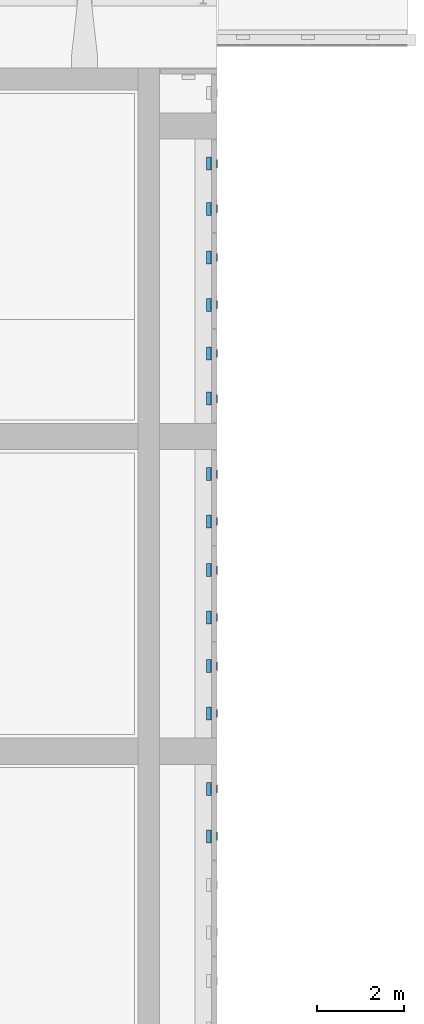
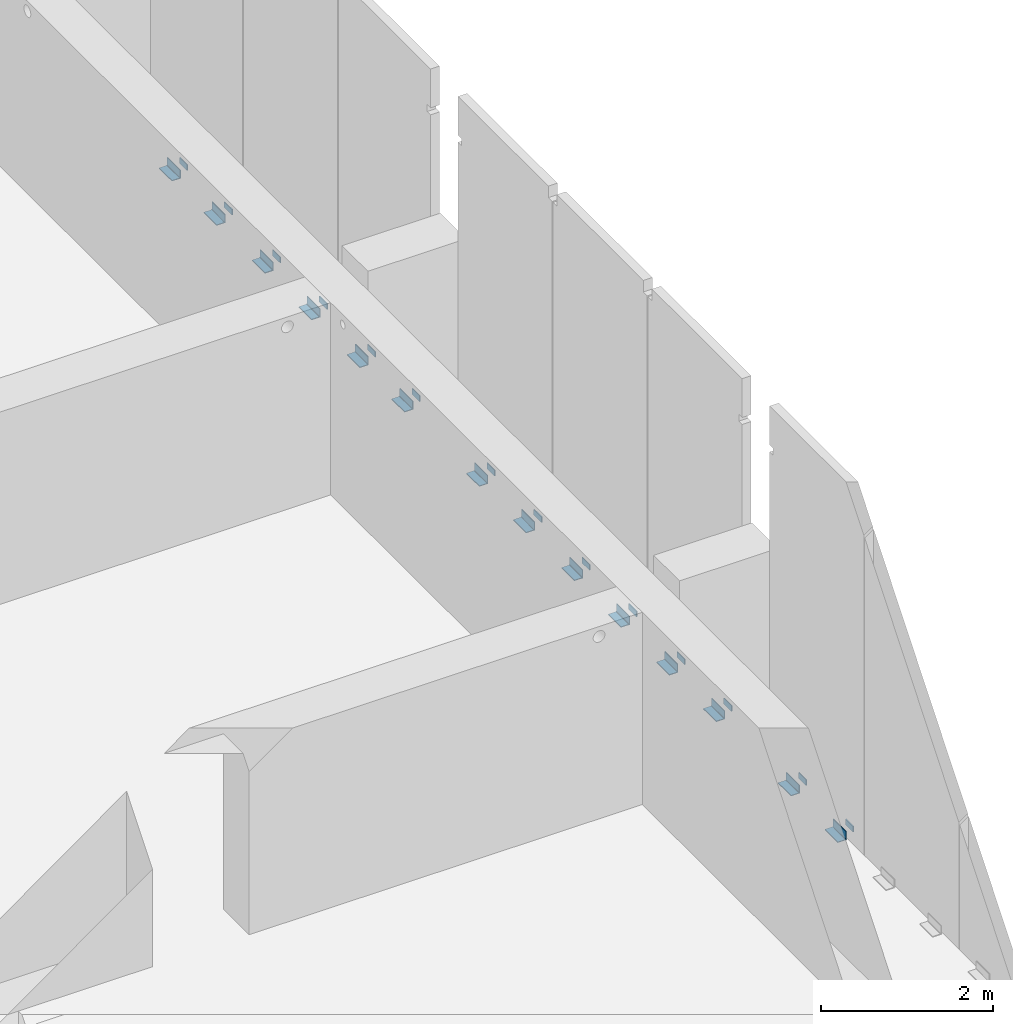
# One storey, part 19 of 31: 28 beams.
"""IFC2X3 building model written with IfcOpenShell, lengths in millimetres."""

from ifc_helpers import new_model, entity, si_unit, converted_unit, derived_unit, direction, frame, frame_2d, origin, origin_2d_with_axis, place, context, subcontext, project, spatial, polyline, circle_curve, parameter, trimmed, segment, composite_curve, rectangle, outline, extrude, source, transform, mapped, material, type_object, type_shapes, element, save


model = new_model("IFC2X3")

# Units and contexts
model_context = context("Model", 3, precision=0.01, world=origin(), true_north=direction((6.12303176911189e-17, 1.0)))
body_context = subcontext(model_context, "Body", "Model", "MODEL_VIEW")
ifc_project = project(units=[si_unit("LENGTHUNIT", "METRE", prefix="MILLI"), si_unit("AREAUNIT", "SQUARE_METRE"), si_unit("VOLUMEUNIT", "CUBIC_METRE"), converted_unit("PLANEANGLEUNIT", "DEGREE", entity("IfcRatioMeasure", 0.0174532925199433), si_unit("PLANEANGLEUNIT", "RADIAN"), dimensions=[0, 0, 0, 0, 0, 0, 0]), si_unit("MASSUNIT", "GRAM", prefix="KILO"), derived_unit("MASSDENSITYUNIT", [(si_unit("MASSUNIT", "GRAM", prefix="KILO"), 1), (si_unit("LENGTHUNIT", "METRE"), -3)]), si_unit("TIMEUNIT", "SECOND"), si_unit("FREQUENCYUNIT", "HERTZ"), si_unit("THERMODYNAMICTEMPERATUREUNIT", "DEGREE_CELSIUS"), derived_unit("THERMALTRANSMITTANCEUNIT", [(si_unit("MASSUNIT", "GRAM", prefix="KILO"), 1), (si_unit("THERMODYNAMICTEMPERATUREUNIT", "KELVIN"), -1), (si_unit("TIMEUNIT", "SECOND"), -3)]), derived_unit("VOLUMETRICFLOWRATEUNIT", [(si_unit("LENGTHUNIT", "METRE"), 3), (si_unit("TIMEUNIT", "SECOND"), -1)]), si_unit("ELECTRICCURRENTUNIT", "AMPERE"), si_unit("ELECTRICVOLTAGEUNIT", "VOLT"), si_unit("POWERUNIT", "WATT"), si_unit("FORCEUNIT", "NEWTON", prefix="KILO"), si_unit("ILLUMINANCEUNIT", "LUX"), si_unit("LUMINOUSFLUXUNIT", "LUMEN"), si_unit("LUMINOUSINTENSITYUNIT", "CANDELA"), derived_unit("USERDEFINED", [(si_unit("MASSUNIT", "GRAM", prefix="KILO"), -1), (si_unit("LENGTHUNIT", "METRE"), -2), (si_unit("TIMEUNIT", "SECOND"), 3), (si_unit("LUMINOUSFLUXUNIT", "LUMEN"), 1)]), derived_unit("LINEARVELOCITYUNIT", [(si_unit("LENGTHUNIT", "METRE"), 1), (si_unit("TIMEUNIT", "SECOND"), -1)]), si_unit("PRESSUREUNIT", "PASCAL"), derived_unit("USERDEFINED", [(si_unit("LENGTHUNIT", "METRE"), -2), (si_unit("MASSUNIT", "GRAM", prefix="KILO"), 1), (si_unit("TIMEUNIT", "SECOND"), -2)])], contexts=[model_context])

# Site, building, storey
site_placement = place(None, origin())
site = spatial("IfcSite", under=ifc_project, at=site_placement, Name="Default", CompositionType="ELEMENT")
building_placement = place(site_placement, origin())
building = spatial("IfcBuilding", under=site, at=building_placement, Name="niet gebruiken", CompositionType="ELEMENT")
storey_placement = place(building_placement, frame((0.0, 0.0, 12000.0)))
storey = spatial("IfcBuildingStorey", under=building, at=storey_placement, Name="03 derde verdieping", CompositionType="ELEMENT", Elevation=12000.0)

# Beams
ifc_material = material(Name="NLRS_h2_staal")
beam_type_1 = type_object("IfcBeamType", Name="NLRS_28.11_SF_WPB_stalen ligger hoekprofiel gelijkzijdig_gen:ligger gelijzijdig hoekprofiel LEQU_120x120x12_!", PredefinedType="BEAM")
beam_1_placement = place(storey_placement, frame((158660.0, 15390.0, 30.0), z_axis=(0.0, 0.0, 1.0), x_axis=(0.0, 1.0, 0.0)))
element("IfcBeam", 1, at=beam_1_placement, inside=storey, type_object=beam_type_1, material=ifc_material, Name="NLRS_28.11_SF_WPB_stalen ligger hoekprofiel gelijkzijdig_gen:ligger gelijzijdig hoekprofiel LEQU_120x120x12_!", ObjectType="NLRS_28.11_SF_WPB_stalen ligger hoekprofiel gelijkzijdig_gen:ligger gelijzijdig hoekprofiel LEQU_120x120x12_!", context=body_context, shape_type="SweptSolid", body=[
    extrude(outline(composite_curve([segment(polyline([(-75.5555555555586, -44.4444444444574), (44.4444444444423, -44.4444444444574)]), True, "CONTINUOUS"), segment(polyline([(44.4444444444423, -44.4444444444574), (44.4444444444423, 75.5555555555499)]), True, "CONTINUOUS"), segment(polyline([(44.4444444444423, 75.5555555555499), (40.444444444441, 75.5555555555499)]), True, "CONTINUOUS"), segment(trimmed(circle_curve(frame_2d((40.4444444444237, 69.5555555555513), x_axis=(0.0, 1.0)), 5.9999999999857), [parameter(0.0)], [parameter(90.0000000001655)], True, "PARAMETER"), True, "CONTINUOUS"), segment(polyline([(34.4444444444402, 69.5555555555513), (34.4444444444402, -22.4444444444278)]), True, "CONTINUOUS"), segment(trimmed(circle_curve(frame_2d((22.4444444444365, -22.4444444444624), x_axis=(1.0, 0.0)), 12.000000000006), [parameter(270.000000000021)], [parameter(0.0)], True, "PARAMETER"), False, "CONTINUOUS"), segment(polyline([(22.4444444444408, -34.4444444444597), (-69.55555555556, -34.4444444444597)]), True, "CONTINUOUS"), segment(trimmed(circle_curve(frame_2d((-69.5555555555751, -40.4444444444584), x_axis=(0.0, 1.0)), 5.9999999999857), [parameter(0.0)], [parameter(90.0000000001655)], True, "PARAMETER"), True, "CONTINUOUS"), segment(polyline([(-75.5555555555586, -40.4444444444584), (-75.5555555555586, -44.4444444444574)]), True, "CONTINUOUS")], self_intersect=False)), frame((0.0, 24.4444444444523, -75.5555555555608), z_axis=(1.0, 0.0, 0.0), x_axis=(0.0, 0.0, -1.0)), (0.0, 0.0, 1.0), 300.000000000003),
])
beam_2_placement = place(storey_placement, frame((158660.0, 16480.0, 30.0), z_axis=(0.0, 0.0, 1.0), x_axis=(0.0, 1.0, 0.0)))
element("IfcBeam", 2, at=beam_2_placement, inside=storey, type_object=beam_type_1, material=ifc_material, Name="NLRS_28.11_SF_WPB_stalen ligger hoekprofiel gelijkzijdig_gen:ligger gelijzijdig hoekprofiel LEQU_120x120x12_!", ObjectType="NLRS_28.11_SF_WPB_stalen ligger hoekprofiel gelijkzijdig_gen:ligger gelijzijdig hoekprofiel LEQU_120x120x12_!", context=body_context, shape_type="SweptSolid", body=[
    extrude(outline(composite_curve([segment(polyline([(-75.5555555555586, -44.4444444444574), (44.4444444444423, -44.4444444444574)]), True, "CONTINUOUS"), segment(polyline([(44.4444444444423, -44.4444444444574), (44.4444444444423, 75.5555555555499)]), True, "CONTINUOUS"), segment(polyline([(44.4444444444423, 75.5555555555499), (40.444444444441, 75.5555555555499)]), True, "CONTINUOUS"), segment(trimmed(circle_curve(frame_2d((40.4444444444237, 69.5555555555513), x_axis=(0.0, 1.0)), 5.9999999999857), [parameter(0.0)], [parameter(90.0000000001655)], True, "PARAMETER"), True, "CONTINUOUS"), segment(polyline([(34.4444444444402, 69.5555555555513), (34.4444444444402, -22.4444444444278)]), True, "CONTINUOUS"), segment(trimmed(circle_curve(frame_2d((22.4444444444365, -22.4444444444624), x_axis=(1.0, 0.0)), 12.000000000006), [parameter(270.000000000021)], [parameter(0.0)], True, "PARAMETER"), False, "CONTINUOUS"), segment(polyline([(22.4444444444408, -34.4444444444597), (-69.55555555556, -34.4444444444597)]), True, "CONTINUOUS"), segment(trimmed(circle_curve(frame_2d((-69.5555555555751, -40.4444444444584), x_axis=(0.0, 1.0)), 5.9999999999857), [parameter(0.0)], [parameter(90.0000000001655)], True, "PARAMETER"), True, "CONTINUOUS"), segment(polyline([(-75.5555555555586, -40.4444444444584), (-75.5555555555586, -44.4444444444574)]), True, "CONTINUOUS")], self_intersect=False)), frame((0.0, 24.4444444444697, -75.5555555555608), z_axis=(1.0, 0.0, 0.0), x_axis=(0.0, 0.0, -1.0)), (0.0, 0.0, 1.0), 300.000000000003),
])
beam_3_placement = place(storey_placement, frame((158660.0, 18220.0, 30.0), z_axis=(0.0, 0.0, 1.0), x_axis=(0.0, 1.0, 0.0)))
element("IfcBeam", 3, at=beam_3_placement, inside=storey, type_object=beam_type_1, material=ifc_material, Name="NLRS_28.11_SF_WPB_stalen ligger hoekprofiel gelijkzijdig_gen:ligger gelijzijdig hoekprofiel LEQU_120x120x12_!", ObjectType="NLRS_28.11_SF_WPB_stalen ligger hoekprofiel gelijkzijdig_gen:ligger gelijzijdig hoekprofiel LEQU_120x120x12_!", context=body_context, shape_type="SweptSolid", body=[
    extrude(outline(composite_curve([segment(polyline([(-75.5555555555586, -44.4444444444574), (44.4444444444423, -44.4444444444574)]), True, "CONTINUOUS"), segment(polyline([(44.4444444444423, -44.4444444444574), (44.4444444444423, 75.5555555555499)]), True, "CONTINUOUS"), segment(polyline([(44.4444444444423, 75.5555555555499), (40.444444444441, 75.5555555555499)]), True, "CONTINUOUS"), segment(trimmed(circle_curve(frame_2d((40.4444444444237, 69.5555555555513), x_axis=(0.0, 1.0)), 5.9999999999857), [parameter(0.0)], [parameter(90.0000000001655)], True, "PARAMETER"), True, "CONTINUOUS"), segment(polyline([(34.4444444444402, 69.5555555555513), (34.4444444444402, -22.4444444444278)]), True, "CONTINUOUS"), segment(trimmed(circle_curve(frame_2d((22.4444444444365, -22.4444444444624), x_axis=(1.0, 0.0)), 12.000000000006), [parameter(270.000000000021)], [parameter(0.0)], True, "PARAMETER"), False, "CONTINUOUS"), segment(polyline([(22.4444444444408, -34.4444444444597), (-69.55555555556, -34.4444444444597)]), True, "CONTINUOUS"), segment(trimmed(circle_curve(frame_2d((-69.5555555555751, -40.4444444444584), x_axis=(0.0, 1.0)), 5.9999999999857), [parameter(0.0)], [parameter(90.0000000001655)], True, "PARAMETER"), True, "CONTINUOUS"), segment(polyline([(-75.5555555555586, -40.4444444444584), (-75.5555555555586, -44.4444444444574)]), True, "CONTINUOUS")], self_intersect=False)), frame((0.0, 24.4444444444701, -75.5555555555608), z_axis=(1.0, 0.0, 0.0), x_axis=(0.0, 0.0, -1.0)), (0.0, 0.0, 1.0), 300.000000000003),
])
beam_4_placement = place(storey_placement, frame((158660.0, 19310.0, 30.0), z_axis=(0.0, 0.0, 1.0), x_axis=(0.0, 1.0, 0.0)))
element("IfcBeam", 4, at=beam_4_placement, inside=storey, type_object=beam_type_1, material=ifc_material, Name="NLRS_28.11_SF_WPB_stalen ligger hoekprofiel gelijkzijdig_gen:ligger gelijzijdig hoekprofiel LEQU_120x120x12_!", ObjectType="NLRS_28.11_SF_WPB_stalen ligger hoekprofiel gelijkzijdig_gen:ligger gelijzijdig hoekprofiel LEQU_120x120x12_!", context=body_context, shape_type="SweptSolid", body=[
    extrude(outline(composite_curve([segment(polyline([(-75.5555555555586, -44.4444444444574), (44.4444444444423, -44.4444444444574)]), True, "CONTINUOUS"), segment(polyline([(44.4444444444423, -44.4444444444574), (44.4444444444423, 75.5555555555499)]), True, "CONTINUOUS"), segment(polyline([(44.4444444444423, 75.5555555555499), (40.444444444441, 75.5555555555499)]), True, "CONTINUOUS"), segment(trimmed(circle_curve(frame_2d((40.4444444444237, 69.5555555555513), x_axis=(0.0, 1.0)), 5.9999999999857), [parameter(0.0)], [parameter(90.0000000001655)], True, "PARAMETER"), True, "CONTINUOUS"), segment(polyline([(34.4444444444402, 69.5555555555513), (34.4444444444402, -22.4444444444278)]), True, "CONTINUOUS"), segment(trimmed(circle_curve(frame_2d((22.4444444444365, -22.4444444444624), x_axis=(1.0, 0.0)), 12.000000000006), [parameter(270.000000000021)], [parameter(0.0)], True, "PARAMETER"), False, "CONTINUOUS"), segment(polyline([(22.4444444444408, -34.4444444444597), (-69.55555555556, -34.4444444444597)]), True, "CONTINUOUS"), segment(trimmed(circle_curve(frame_2d((-69.5555555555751, -40.4444444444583), x_axis=(0.0, 1.0)), 5.9999999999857), [parameter(0.0)], [parameter(90.0000000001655)], True, "PARAMETER"), True, "CONTINUOUS"), segment(polyline([(-75.5555555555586, -40.4444444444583), (-75.5555555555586, -44.4444444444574)]), True, "CONTINUOUS")], self_intersect=False)), frame((0.0, 24.4444444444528, -75.5555555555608), z_axis=(1.0, 0.0, 0.0), x_axis=(0.0, 0.0, -1.0)), (0.0, 0.0, 1.0), 300.000000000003),
])
beam_5_placement = place(storey_placement, frame((158660.0, 20430.0, 30.0), z_axis=(0.0, 0.0, 1.0), x_axis=(0.0, 1.0, 0.0)))
element("IfcBeam", 5, at=beam_5_placement, inside=storey, type_object=beam_type_1, material=ifc_material, Name="NLRS_28.11_SF_WPB_stalen ligger hoekprofiel gelijkzijdig_gen:ligger gelijzijdig hoekprofiel LEQU_120x120x12_!", ObjectType="NLRS_28.11_SF_WPB_stalen ligger hoekprofiel gelijkzijdig_gen:ligger gelijzijdig hoekprofiel LEQU_120x120x12_!", context=body_context, shape_type="SweptSolid", body=[
    extrude(outline(composite_curve([segment(polyline([(-75.5555555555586, -44.4444444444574), (44.4444444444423, -44.4444444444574)]), True, "CONTINUOUS"), segment(polyline([(44.4444444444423, -44.4444444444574), (44.4444444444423, 75.5555555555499)]), True, "CONTINUOUS"), segment(polyline([(44.4444444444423, 75.5555555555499), (40.444444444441, 75.5555555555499)]), True, "CONTINUOUS"), segment(trimmed(circle_curve(frame_2d((40.4444444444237, 69.5555555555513), x_axis=(0.0, 1.0)), 5.9999999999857), [parameter(0.0)], [parameter(90.0000000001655)], True, "PARAMETER"), True, "CONTINUOUS"), segment(polyline([(34.4444444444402, 69.5555555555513), (34.4444444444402, -22.4444444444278)]), True, "CONTINUOUS"), segment(trimmed(circle_curve(frame_2d((22.4444444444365, -22.4444444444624), x_axis=(1.0, 0.0)), 12.000000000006), [parameter(270.000000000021)], [parameter(0.0)], True, "PARAMETER"), False, "CONTINUOUS"), segment(polyline([(22.4444444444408, -34.4444444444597), (-69.55555555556, -34.4444444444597)]), True, "CONTINUOUS"), segment(trimmed(circle_curve(frame_2d((-69.5555555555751, -40.4444444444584), x_axis=(0.0, 1.0)), 5.9999999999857), [parameter(0.0)], [parameter(90.0000000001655)], True, "PARAMETER"), True, "CONTINUOUS"), segment(polyline([(-75.5555555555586, -40.4444444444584), (-75.5555555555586, -44.4444444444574)]), True, "CONTINUOUS")], self_intersect=False)), frame((0.0, 24.4444444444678, -75.5555555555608), z_axis=(1.0, 0.0, 0.0), x_axis=(0.0, 0.0, -1.0)), (0.0, 0.0, 1.0), 300.000000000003),
])
beam_6_placement = place(storey_placement, frame((158660.0, 21520.0, 30.0), z_axis=(0.0, 0.0, 1.0), x_axis=(0.0, 1.0, 0.0)))
element("IfcBeam", 6, at=beam_6_placement, inside=storey, type_object=beam_type_1, material=ifc_material, Name="NLRS_28.11_SF_WPB_stalen ligger hoekprofiel gelijkzijdig_gen:ligger gelijzijdig hoekprofiel LEQU_120x120x12_!", ObjectType="NLRS_28.11_SF_WPB_stalen ligger hoekprofiel gelijkzijdig_gen:ligger gelijzijdig hoekprofiel LEQU_120x120x12_!", context=body_context, shape_type="SweptSolid", body=[
    extrude(outline(composite_curve([segment(polyline([(-75.5555555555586, -44.4444444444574), (44.4444444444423, -44.4444444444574)]), True, "CONTINUOUS"), segment(polyline([(44.4444444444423, -44.4444444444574), (44.4444444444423, 75.5555555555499)]), True, "CONTINUOUS"), segment(polyline([(44.4444444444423, 75.5555555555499), (40.444444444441, 75.5555555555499)]), True, "CONTINUOUS"), segment(trimmed(circle_curve(frame_2d((40.4444444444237, 69.5555555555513), x_axis=(0.0, 1.0)), 5.9999999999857), [parameter(0.0)], [parameter(90.0000000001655)], True, "PARAMETER"), True, "CONTINUOUS"), segment(polyline([(34.4444444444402, 69.5555555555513), (34.4444444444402, -22.4444444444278)]), True, "CONTINUOUS"), segment(trimmed(circle_curve(frame_2d((22.4444444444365, -22.4444444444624), x_axis=(1.0, 0.0)), 12.000000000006), [parameter(270.000000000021)], [parameter(0.0)], True, "PARAMETER"), False, "CONTINUOUS"), segment(polyline([(22.4444444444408, -34.4444444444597), (-69.55555555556, -34.4444444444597)]), True, "CONTINUOUS"), segment(trimmed(circle_curve(frame_2d((-69.5555555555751, -40.4444444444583), x_axis=(0.0, 1.0)), 5.9999999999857), [parameter(0.0)], [parameter(90.0000000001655)], True, "PARAMETER"), True, "CONTINUOUS"), segment(polyline([(-75.5555555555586, -40.4444444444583), (-75.5555555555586, -44.4444444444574)]), True, "CONTINUOUS")], self_intersect=False)), frame((0.0, 24.4444444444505, -75.5555555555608), z_axis=(1.0, 0.0, 0.0), x_axis=(0.0, 0.0, -1.0)), (0.0, 0.0, 1.0), 300.000000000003),
])
beam_7_placement = place(storey_placement, frame((158660.0, 22640.0, 30.0), z_axis=(0.0, 0.0, 1.0), x_axis=(0.0, 1.0, 0.0)))
element("IfcBeam", 7, at=beam_7_placement, inside=storey, type_object=beam_type_1, material=ifc_material, Name="NLRS_28.11_SF_WPB_stalen ligger hoekprofiel gelijkzijdig_gen:ligger gelijzijdig hoekprofiel LEQU_120x120x12_!", ObjectType="NLRS_28.11_SF_WPB_stalen ligger hoekprofiel gelijkzijdig_gen:ligger gelijzijdig hoekprofiel LEQU_120x120x12_!", context=body_context, shape_type="SweptSolid", body=[
    extrude(outline(composite_curve([segment(polyline([(-75.5555555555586, -44.4444444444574), (44.4444444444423, -44.4444444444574)]), True, "CONTINUOUS"), segment(polyline([(44.4444444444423, -44.4444444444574), (44.4444444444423, 75.5555555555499)]), True, "CONTINUOUS"), segment(polyline([(44.4444444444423, 75.5555555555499), (40.444444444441, 75.5555555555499)]), True, "CONTINUOUS"), segment(trimmed(circle_curve(frame_2d((40.4444444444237, 69.5555555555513), x_axis=(0.0, 1.0)), 5.9999999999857), [parameter(0.0)], [parameter(90.0000000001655)], True, "PARAMETER"), True, "CONTINUOUS"), segment(polyline([(34.4444444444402, 69.5555555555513), (34.4444444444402, -22.4444444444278)]), True, "CONTINUOUS"), segment(trimmed(circle_curve(frame_2d((22.4444444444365, -22.4444444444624), x_axis=(1.0, 0.0)), 12.000000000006), [parameter(270.000000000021)], [parameter(0.0)], True, "PARAMETER"), False, "CONTINUOUS"), segment(polyline([(22.4444444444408, -34.4444444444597), (-69.55555555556, -34.4444444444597)]), True, "CONTINUOUS"), segment(trimmed(circle_curve(frame_2d((-69.5555555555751, -40.4444444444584), x_axis=(0.0, 1.0)), 5.9999999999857), [parameter(0.0)], [parameter(90.0000000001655)], True, "PARAMETER"), True, "CONTINUOUS"), segment(polyline([(-75.5555555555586, -40.4444444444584), (-75.5555555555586, -44.4444444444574)]), True, "CONTINUOUS")], self_intersect=False)), frame((0.0, 24.4444444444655, -75.5555555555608), z_axis=(1.0, 0.0, 0.0), x_axis=(0.0, 0.0, -1.0)), (0.0, 0.0, 1.0), 300.000000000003),
])
beam_8_placement = place(storey_placement, frame((158660.0, 23730.0, 30.0), z_axis=(0.0, 0.0, 1.0), x_axis=(0.0, 1.0, 0.0)))
element("IfcBeam", 8, at=beam_8_placement, inside=storey, type_object=beam_type_1, material=ifc_material, Name="NLRS_28.11_SF_WPB_stalen ligger hoekprofiel gelijkzijdig_gen:ligger gelijzijdig hoekprofiel LEQU_120x120x12_!", ObjectType="NLRS_28.11_SF_WPB_stalen ligger hoekprofiel gelijkzijdig_gen:ligger gelijzijdig hoekprofiel LEQU_120x120x12_!", context=body_context, shape_type="SweptSolid", body=[
    extrude(outline(composite_curve([segment(polyline([(-75.5555555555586, -44.4444444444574), (44.4444444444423, -44.4444444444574)]), True, "CONTINUOUS"), segment(polyline([(44.4444444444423, -44.4444444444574), (44.4444444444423, 75.5555555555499)]), True, "CONTINUOUS"), segment(polyline([(44.4444444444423, 75.5555555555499), (40.444444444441, 75.5555555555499)]), True, "CONTINUOUS"), segment(trimmed(circle_curve(frame_2d((40.4444444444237, 69.5555555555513), x_axis=(0.0, 1.0)), 5.9999999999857), [parameter(0.0)], [parameter(90.0000000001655)], True, "PARAMETER"), True, "CONTINUOUS"), segment(polyline([(34.4444444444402, 69.5555555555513), (34.4444444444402, -22.4444444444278)]), True, "CONTINUOUS"), segment(trimmed(circle_curve(frame_2d((22.4444444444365, -22.4444444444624), x_axis=(1.0, 0.0)), 12.000000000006), [parameter(270.000000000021)], [parameter(0.0)], True, "PARAMETER"), False, "CONTINUOUS"), segment(polyline([(22.4444444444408, -34.4444444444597), (-69.55555555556, -34.4444444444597)]), True, "CONTINUOUS"), segment(trimmed(circle_curve(frame_2d((-69.5555555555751, -40.4444444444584), x_axis=(0.0, 1.0)), 5.9999999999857), [parameter(0.0)], [parameter(90.0000000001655)], True, "PARAMETER"), True, "CONTINUOUS"), segment(polyline([(-75.5555555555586, -40.4444444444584), (-75.5555555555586, -44.4444444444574)]), True, "CONTINUOUS")], self_intersect=False)), frame((0.0, 24.4444444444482, -75.5555555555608), z_axis=(1.0, 0.0, 0.0), x_axis=(0.0, 0.0, -1.0)), (0.0, 0.0, 1.0), 300.000000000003),
])
beam_9_placement = place(storey_placement, frame((158660.0, 25470.0, 30.0), z_axis=(0.0, 0.0, 1.0), x_axis=(0.0, 1.0, 0.0)))
element("IfcBeam", 9, at=beam_9_placement, inside=storey, type_object=beam_type_1, material=ifc_material, Name="NLRS_28.11_SF_WPB_stalen ligger hoekprofiel gelijkzijdig_gen:ligger gelijzijdig hoekprofiel LEQU_120x120x12_!", ObjectType="NLRS_28.11_SF_WPB_stalen ligger hoekprofiel gelijkzijdig_gen:ligger gelijzijdig hoekprofiel LEQU_120x120x12_!", context=body_context, shape_type="SweptSolid", body=[
    extrude(outline(composite_curve([segment(polyline([(-75.5555555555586, -44.4444444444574), (44.4444444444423, -44.4444444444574)]), True, "CONTINUOUS"), segment(polyline([(44.4444444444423, -44.4444444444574), (44.4444444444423, 75.5555555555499)]), True, "CONTINUOUS"), segment(polyline([(44.4444444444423, 75.5555555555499), (40.444444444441, 75.5555555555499)]), True, "CONTINUOUS"), segment(trimmed(circle_curve(frame_2d((40.4444444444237, 69.5555555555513), x_axis=(0.0, 1.0)), 5.9999999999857), [parameter(0.0)], [parameter(90.0000000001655)], True, "PARAMETER"), True, "CONTINUOUS"), segment(polyline([(34.4444444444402, 69.5555555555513), (34.4444444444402, -22.4444444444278)]), True, "CONTINUOUS"), segment(trimmed(circle_curve(frame_2d((22.4444444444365, -22.4444444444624), x_axis=(1.0, 0.0)), 12.000000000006), [parameter(270.000000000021)], [parameter(0.0)], True, "PARAMETER"), False, "CONTINUOUS"), segment(polyline([(22.4444444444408, -34.4444444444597), (-69.55555555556, -34.4444444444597)]), True, "CONTINUOUS"), segment(trimmed(circle_curve(frame_2d((-69.5555555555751, -40.4444444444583), x_axis=(0.0, 1.0)), 5.9999999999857), [parameter(0.0)], [parameter(90.0000000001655)], True, "PARAMETER"), True, "CONTINUOUS"), segment(polyline([(-75.5555555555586, -40.4444444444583), (-75.5555555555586, -44.4444444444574)]), True, "CONTINUOUS")], self_intersect=False)), frame((0.0, 24.4444444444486, -75.5555555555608), z_axis=(1.0, 0.0, 0.0), x_axis=(0.0, 0.0, -1.0)), (0.0, 0.0, 1.0), 300.000000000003),
])
beam_10_placement = place(storey_placement, frame((158660.0, 26510.0, 30.0), z_axis=(0.0, 0.0, 1.0), x_axis=(0.0, 1.0, 0.0)))
element("IfcBeam", 10, at=beam_10_placement, inside=storey, type_object=beam_type_1, material=ifc_material, Name="NLRS_28.11_SF_WPB_stalen ligger hoekprofiel gelijkzijdig_gen:ligger gelijzijdig hoekprofiel LEQU_120x120x12_!", ObjectType="NLRS_28.11_SF_WPB_stalen ligger hoekprofiel gelijkzijdig_gen:ligger gelijzijdig hoekprofiel LEQU_120x120x12_!", context=body_context, shape_type="SweptSolid", body=[
    extrude(outline(composite_curve([segment(polyline([(-75.5555555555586, -44.4444444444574), (44.4444444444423, -44.4444444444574)]), True, "CONTINUOUS"), segment(polyline([(44.4444444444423, -44.4444444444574), (44.4444444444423, 75.5555555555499)]), True, "CONTINUOUS"), segment(polyline([(44.4444444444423, 75.5555555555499), (40.444444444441, 75.5555555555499)]), True, "CONTINUOUS"), segment(trimmed(circle_curve(frame_2d((40.4444444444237, 69.5555555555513), x_axis=(0.0, 1.0)), 5.9999999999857), [parameter(0.0)], [parameter(90.0000000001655)], True, "PARAMETER"), True, "CONTINUOUS"), segment(polyline([(34.4444444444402, 69.5555555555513), (34.4444444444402, -22.4444444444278)]), True, "CONTINUOUS"), segment(trimmed(circle_curve(frame_2d((22.4444444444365, -22.4444444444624), x_axis=(1.0, 0.0)), 12.000000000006), [parameter(270.000000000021)], [parameter(0.0)], True, "PARAMETER"), False, "CONTINUOUS"), segment(polyline([(22.4444444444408, -34.4444444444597), (-69.55555555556, -34.4444444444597)]), True, "CONTINUOUS"), segment(trimmed(circle_curve(frame_2d((-69.5555555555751, -40.4444444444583), x_axis=(0.0, 1.0)), 5.9999999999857), [parameter(0.0)], [parameter(90.0000000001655)], True, "PARAMETER"), True, "CONTINUOUS"), segment(polyline([(-75.5555555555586, -40.4444444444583), (-75.5555555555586, -44.4444444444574)]), True, "CONTINUOUS")], self_intersect=False)), frame((0.0, 24.4444444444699, -75.5555555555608), z_axis=(1.0, 0.0, 0.0), x_axis=(0.0, 0.0, -1.0)), (0.0, 0.0, 1.0), 300.000000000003),
])
beam_11_placement = place(storey_placement, frame((158660.0, 27630.0, 30.0), z_axis=(0.0, 0.0, 1.0), x_axis=(0.0, 1.0, 0.0)))
element("IfcBeam", 11, at=beam_11_placement, inside=storey, type_object=beam_type_1, material=ifc_material, Name="NLRS_28.11_SF_WPB_stalen ligger hoekprofiel gelijkzijdig_gen:ligger gelijzijdig hoekprofiel LEQU_120x120x12_!", ObjectType="NLRS_28.11_SF_WPB_stalen ligger hoekprofiel gelijkzijdig_gen:ligger gelijzijdig hoekprofiel LEQU_120x120x12_!", context=body_context, shape_type="SweptSolid", body=[
    extrude(outline(composite_curve([segment(polyline([(-75.5555555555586, -44.4444444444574), (44.4444444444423, -44.4444444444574)]), True, "CONTINUOUS"), segment(polyline([(44.4444444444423, -44.4444444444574), (44.4444444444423, 75.5555555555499)]), True, "CONTINUOUS"), segment(polyline([(44.4444444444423, 75.5555555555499), (40.444444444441, 75.5555555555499)]), True, "CONTINUOUS"), segment(trimmed(circle_curve(frame_2d((40.4444444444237, 69.5555555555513), x_axis=(0.0, 1.0)), 5.9999999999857), [parameter(0.0)], [parameter(90.0000000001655)], True, "PARAMETER"), True, "CONTINUOUS"), segment(polyline([(34.4444444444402, 69.5555555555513), (34.4444444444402, -22.4444444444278)]), True, "CONTINUOUS"), segment(trimmed(circle_curve(frame_2d((22.4444444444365, -22.4444444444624), x_axis=(1.0, 0.0)), 12.000000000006), [parameter(270.000000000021)], [parameter(0.0)], True, "PARAMETER"), False, "CONTINUOUS"), segment(polyline([(22.4444444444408, -34.4444444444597), (-69.55555555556, -34.4444444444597)]), True, "CONTINUOUS"), segment(trimmed(circle_curve(frame_2d((-69.5555555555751, -40.4444444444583), x_axis=(0.0, 1.0)), 5.9999999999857), [parameter(0.0)], [parameter(90.0000000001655)], True, "PARAMETER"), True, "CONTINUOUS"), segment(polyline([(-75.5555555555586, -40.4444444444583), (-75.5555555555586, -44.4444444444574)]), True, "CONTINUOUS")], self_intersect=False)), frame((0.0, 24.4444444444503, -75.5555555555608), z_axis=(1.0, 0.0, 0.0), x_axis=(0.0, 0.0, -1.0)), (0.0, 0.0, 1.0), 300.000000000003),
])
beam_12_placement = place(storey_placement, frame((158660.0, 28720.0, 30.0), z_axis=(0.0, 0.0, 1.0), x_axis=(0.0, 1.0, 0.0)))
element("IfcBeam", 12, at=beam_12_placement, inside=storey, type_object=beam_type_1, material=ifc_material, Name="NLRS_28.11_SF_WPB_stalen ligger hoekprofiel gelijkzijdig_gen:ligger gelijzijdig hoekprofiel LEQU_120x120x12_!", ObjectType="NLRS_28.11_SF_WPB_stalen ligger hoekprofiel gelijkzijdig_gen:ligger gelijzijdig hoekprofiel LEQU_120x120x12_!", context=body_context, shape_type="SweptSolid", body=[
    extrude(outline(composite_curve([segment(polyline([(-75.5555555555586, -44.4444444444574), (44.4444444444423, -44.4444444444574)]), True, "CONTINUOUS"), segment(polyline([(44.4444444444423, -44.4444444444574), (44.4444444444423, 75.5555555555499)]), True, "CONTINUOUS"), segment(polyline([(44.4444444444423, 75.5555555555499), (40.444444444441, 75.5555555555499)]), True, "CONTINUOUS"), segment(trimmed(circle_curve(frame_2d((40.4444444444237, 69.5555555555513), x_axis=(0.0, 1.0)), 5.9999999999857), [parameter(0.0)], [parameter(90.0000000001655)], True, "PARAMETER"), True, "CONTINUOUS"), segment(polyline([(34.4444444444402, 69.5555555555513), (34.4444444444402, -22.4444444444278)]), True, "CONTINUOUS"), segment(trimmed(circle_curve(frame_2d((22.4444444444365, -22.4444444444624), x_axis=(1.0, 0.0)), 12.000000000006), [parameter(270.000000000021)], [parameter(0.0)], True, "PARAMETER"), False, "CONTINUOUS"), segment(polyline([(22.4444444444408, -34.4444444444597), (-69.55555555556, -34.4444444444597)]), True, "CONTINUOUS"), segment(trimmed(circle_curve(frame_2d((-69.5555555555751, -40.4444444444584), x_axis=(0.0, 1.0)), 5.9999999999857), [parameter(0.0)], [parameter(90.0000000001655)], True, "PARAMETER"), True, "CONTINUOUS"), segment(polyline([(-75.5555555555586, -40.4444444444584), (-75.5555555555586, -44.4444444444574)]), True, "CONTINUOUS")], self_intersect=False)), frame((0.0, 24.4444444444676, -75.5555555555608), z_axis=(1.0, 0.0, 0.0), x_axis=(0.0, 0.0, -1.0)), (0.0, 0.0, 1.0), 300.000000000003),
])
beam_13_placement = place(storey_placement, frame((158660.0, 29840.0, 30.0), z_axis=(0.0, 0.0, 1.0), x_axis=(0.0, 1.0, 0.0)))
element("IfcBeam", 13, at=beam_13_placement, inside=storey, type_object=beam_type_1, material=ifc_material, Name="NLRS_28.11_SF_WPB_stalen ligger hoekprofiel gelijkzijdig_gen:ligger gelijzijdig hoekprofiel LEQU_120x120x12_!", ObjectType="NLRS_28.11_SF_WPB_stalen ligger hoekprofiel gelijkzijdig_gen:ligger gelijzijdig hoekprofiel LEQU_120x120x12_!", context=body_context, shape_type="SweptSolid", body=[
    extrude(outline(composite_curve([segment(polyline([(-75.5555555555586, -44.4444444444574), (44.4444444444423, -44.4444444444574)]), True, "CONTINUOUS"), segment(polyline([(44.4444444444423, -44.4444444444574), (44.4444444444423, 75.5555555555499)]), True, "CONTINUOUS"), segment(polyline([(44.4444444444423, 75.5555555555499), (40.444444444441, 75.5555555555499)]), True, "CONTINUOUS"), segment(trimmed(circle_curve(frame_2d((40.4444444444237, 69.5555555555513), x_axis=(0.0, 1.0)), 5.9999999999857), [parameter(0.0)], [parameter(90.0000000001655)], True, "PARAMETER"), True, "CONTINUOUS"), segment(polyline([(34.4444444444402, 69.5555555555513), (34.4444444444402, -22.4444444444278)]), True, "CONTINUOUS"), segment(trimmed(circle_curve(frame_2d((22.4444444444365, -22.4444444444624), x_axis=(1.0, 0.0)), 12.000000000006), [parameter(270.000000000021)], [parameter(0.0)], True, "PARAMETER"), False, "CONTINUOUS"), segment(polyline([(22.4444444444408, -34.4444444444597), (-69.55555555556, -34.4444444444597)]), True, "CONTINUOUS"), segment(trimmed(circle_curve(frame_2d((-69.5555555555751, -40.4444444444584), x_axis=(0.0, 1.0)), 5.9999999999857), [parameter(0.0)], [parameter(90.0000000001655)], True, "PARAMETER"), True, "CONTINUOUS"), segment(polyline([(-75.5555555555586, -40.4444444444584), (-75.5555555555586, -44.4444444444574)]), True, "CONTINUOUS")], self_intersect=False)), frame((0.0, 24.444444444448, -75.5555555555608), z_axis=(1.0, 0.0, 0.0), x_axis=(0.0, 0.0, -1.0)), (0.0, 0.0, 1.0), 300.000000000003),
])
beam_14_placement = place(storey_placement, frame((158660.0, 30880.0, 30.0), z_axis=(0.0, 0.0, 1.0), x_axis=(0.0, 1.0, 0.0)))
element("IfcBeam", 14, at=beam_14_placement, inside=storey, type_object=beam_type_1, material=ifc_material, Name="NLRS_28.11_SF_WPB_stalen ligger hoekprofiel gelijkzijdig_gen:ligger gelijzijdig hoekprofiel LEQU_120x120x12_!", ObjectType="NLRS_28.11_SF_WPB_stalen ligger hoekprofiel gelijkzijdig_gen:ligger gelijzijdig hoekprofiel LEQU_120x120x12_!", context=body_context, shape_type="SweptSolid", body=[
    extrude(outline(composite_curve([segment(polyline([(-75.5555555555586, -44.4444444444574), (44.4444444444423, -44.4444444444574)]), True, "CONTINUOUS"), segment(polyline([(44.4444444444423, -44.4444444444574), (44.4444444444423, 75.5555555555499)]), True, "CONTINUOUS"), segment(polyline([(44.4444444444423, 75.5555555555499), (40.444444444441, 75.5555555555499)]), True, "CONTINUOUS"), segment(trimmed(circle_curve(frame_2d((40.4444444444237, 69.5555555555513), x_axis=(0.0, 1.0)), 5.9999999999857), [parameter(0.0)], [parameter(90.0000000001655)], True, "PARAMETER"), True, "CONTINUOUS"), segment(polyline([(34.4444444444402, 69.5555555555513), (34.4444444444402, -22.4444444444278)]), True, "CONTINUOUS"), segment(trimmed(circle_curve(frame_2d((22.4444444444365, -22.4444444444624), x_axis=(1.0, 0.0)), 12.000000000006), [parameter(270.000000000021)], [parameter(0.0)], True, "PARAMETER"), False, "CONTINUOUS"), segment(polyline([(22.4444444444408, -34.4444444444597), (-69.55555555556, -34.4444444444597)]), True, "CONTINUOUS"), segment(trimmed(circle_curve(frame_2d((-69.5555555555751, -40.4444444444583), x_axis=(0.0, 1.0)), 5.9999999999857), [parameter(0.0)], [parameter(90.0000000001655)], True, "PARAMETER"), True, "CONTINUOUS"), segment(polyline([(-75.5555555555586, -40.4444444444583), (-75.5555555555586, -44.4444444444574)]), True, "CONTINUOUS")], self_intersect=False)), frame((0.0, 24.4444444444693, -75.5555555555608), z_axis=(1.0, 0.0, 0.0), x_axis=(0.0, 0.0, -1.0)), (0.0, 0.0, 1.0), 300.000000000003),
])
beam_type_2 = type_object("IfcBeamType", Name="ligger stripstaal RECT_80x12 gedraaid_!", PredefinedType="BEAM", material=ifc_material)
shared_shape = source(origin(), body_context, "Body", "SweptSolid", [
    extrude(rectangle(XDim=179.99999999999, YDim=12.0, at=origin_2d_with_axis()), frame((0.0, 0.0, -40.0), z_axis=(0.0, 0.0, 1.0), x_axis=(-1.0, 0.0, 0.0)), (0.0, 0.0, 1.0), 80.0),
    extrude(rectangle(XDim=179.99999999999, YDim=12.0, at=origin_2d_with_axis()), frame((0.0, 0.0, -40.0), z_axis=(0.0, 0.0, 1.0), x_axis=(-1.0, 0.0, 0.0)), (0.0, 0.0, 1.0), 80.0),
])
type_shapes(beam_type_2, [shared_shape])
for number, where, z_axis, x_axis in (
    (15, (158806.0, 15540.0, -20.0), (0.0, 0.0, 1.0), (0.0, -1.0, 0.0)),
    (16, (158806.0, 16630.0, -20.0), (0.0, 0.0, 1.0), (0.0, -1.0, 0.0)),
    (17, (158806.0, 18370.0, -20.0), (0.0, 0.0, 1.0), (0.0, -1.0, 0.0)),
    (18, (158806.0, 19460.0, -20.0), (0.0, 0.0, 1.0), (0.0, -1.0, 0.0)),
    (19, (158806.0, 20580.0, -20.0), (0.0, 0.0, 1.0), (0.0, -1.0, 0.0)),
    (20, (158806.0, 21670.0, -20.0), (0.0, 0.0, 1.0), (0.0, -1.0, 0.0)),
    (21, (158806.0, 22790.0, -20.0), (0.0, 0.0, 1.0), (0.0, -1.0, 0.0)),
    (22, (158806.0, 23880.0, -20.0), (0.0, 0.0, 1.0), (0.0, -1.0, 0.0)),
    (23, (158806.0, 25620.0, -20.0), (0.0, 0.0, 1.0), (0.0, -1.0, 0.0)),
    (24, (158806.0, 26660.0, -20.0), (0.0, 0.0, 1.0), (0.0, -1.0, 0.0)),
    (25, (158806.0, 27780.0, -20.0), (0.0, 0.0, 1.0), (0.0, -1.0, 0.0)),
    (26, (158806.0, 28870.0, -20.0), (0.0, 0.0, 1.0), (0.0, -1.0, 0.0)),
    (27, (158806.0, 29990.0, -20.0), (0.0, 0.0, 1.0), (0.0, -1.0, 0.0)),
    (28, (158806.0, 31030.0, -20.0), (0.0, 0.0, 1.0), (0.0, -1.0, 0.0)),
):
    element("IfcBeam", number, at=place(storey_placement, frame(where, z_axis=z_axis, x_axis=x_axis)), inside=storey, type_object=beam_type_2, material=ifc_material, Name="NLRS_28.11_SF_WPB_stalen ligger stripstaal_gen:ligger stripstaal RECT_80x12 gedraaid_!", ObjectType="ligger stripstaal RECT_80x12 gedraaid_!", context=body_context, shape_type="MappedRepresentation", body=[
        mapped(shared_shape, transform((0.0, 0.0, 0.0), scale=1.0)),
    ])

save(model, "model.ifc")
